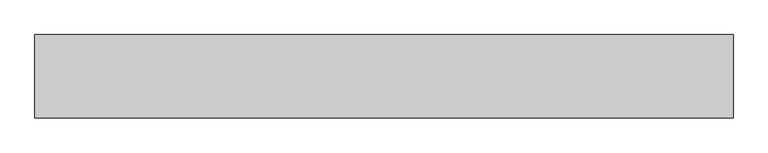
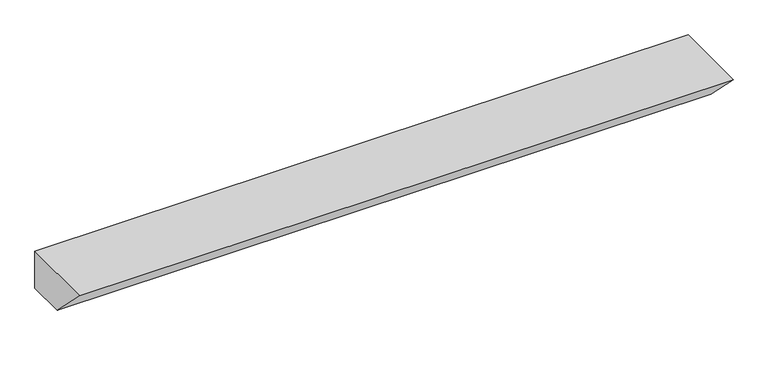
"""IFC4 building model written with IfcOpenShell, lengths in millimetres: proxy geometry, Gousset traverse bord droit : Gousset traverse bord droit."""

from ifc_helpers import new_model, si_unit, frame, origin, place, context, project, spatial, polyline, outline, extrude, source, transform, mapped, element, save


def generic_models_697e8544(model_context):
    return source(origin(), model_context, "Body", "SweptSolid", [
        extrude(outline(polyline([(0.0, -350.0), (0.0, -700.0), (-350.0, -700.0), (-700.0, -350.0), (0.0, -350.0)])), frame((0.0, 0.0, 0.0), z_axis=(1.0, 0.0, 0.0), x_axis=(0.0, 1.0, 0.0)), (0.0, 0.0, 1.0), 5872.9592015),
    ])


if __name__ == "__main__":
    model = new_model("IFC4")
    model_context = context("Model", 3, world=origin())
    ifc_project = project(units=[si_unit("LENGTHUNIT", "METRE", prefix="MILLI")], contexts=[model_context])
    site = spatial("IfcSite", under=ifc_project)
    building = spatial("IfcBuilding", under=site)
    placement = place(None, origin())
    generic_models_shape = generic_models_697e8544(model_context)
    element("IfcBuildingElementProxy", 1, Name="Gousset traverse bord droit : Gousset traverse bord droit", ObjectType="Gousset traverse bord droit : Gousset traverse bord droit", at=placement, inside=building, context=model_context, shape_type="MappedRepresentation", body=[
        mapped(generic_models_shape, transform((0.0, 0.0, 0.0), x_axis=(1.0, 0.0, 0.0), y_axis=(0.0, 1.0, 0.0), z_axis=(0.0, 0.0, 1.0))),
    ])
    save(model, "model.ifc")
